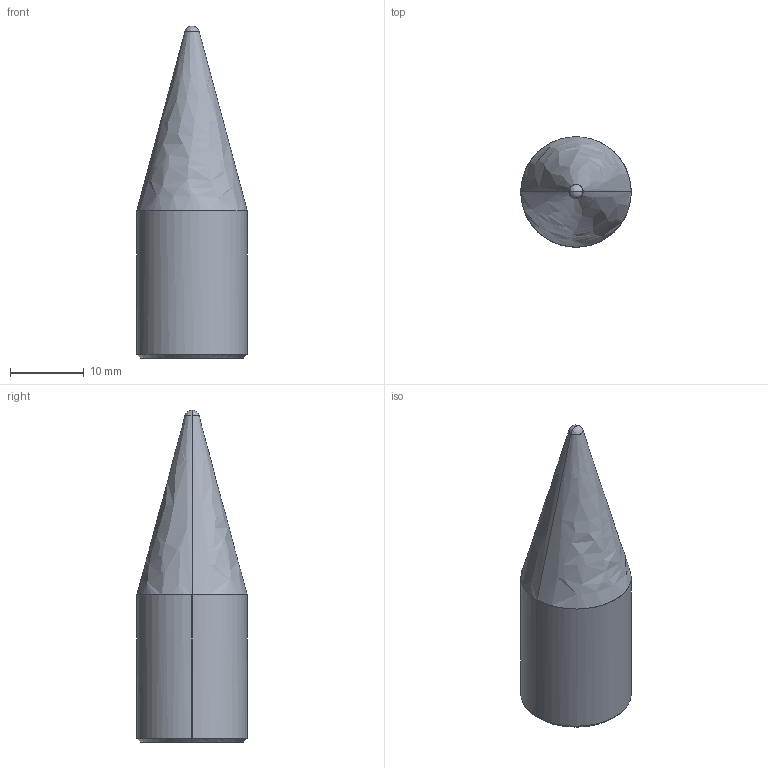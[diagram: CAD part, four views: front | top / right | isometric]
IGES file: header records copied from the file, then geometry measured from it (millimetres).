
Global section: file name: E:\UnigraphicsGraphicData\MISUMI_PRESS-PARTS\IGES\3d_snst15-b20_03111_r00.igs; native system: NX V5.0; preprocessor: UGS NX IGES V5.0; author: MISUMI; date: 20110105.162852; units: millimetre
Bounding box: 15 x 15 x 45.13 mm (x, y, z)
Surface area: 2007.9 mm2 (no closed solid volume)
Topology: 0 solids, 0 shells, 12 faces, 64 edges, 62 vertices
Faces by surface type: bspline 12
